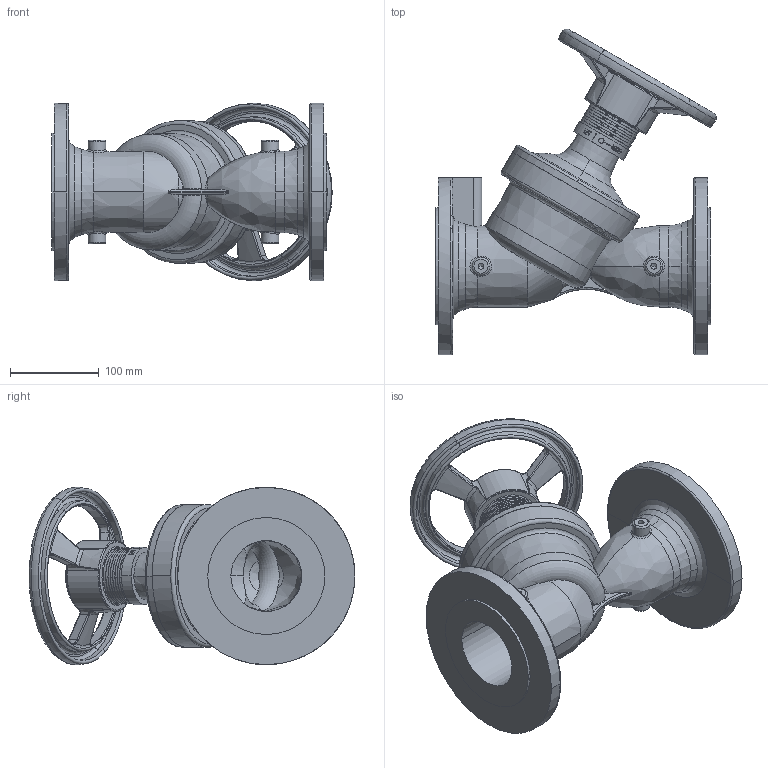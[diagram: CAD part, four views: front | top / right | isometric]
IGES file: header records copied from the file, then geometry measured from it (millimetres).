
Global section: file name: No Iges File Name specified; native system: AutoDesk Inventor R12.0; preprocessor: AutoDesk Inventor Iges Exporter R12.0; date: 20110225.103705; units: millimetre
Bounding box: 316.32 x 367.61 x 200.19 mm (x, y, z)
Volume: 2636184.5 mm3; surface area: 512518.2 mm2
Topology: 1 solids, 4 shells, 946 faces, 2464 edges, 1573 vertices
Faces by surface type: bspline 317, plane 299, revolution 130, cylinder 87, cone 63, torus 50
